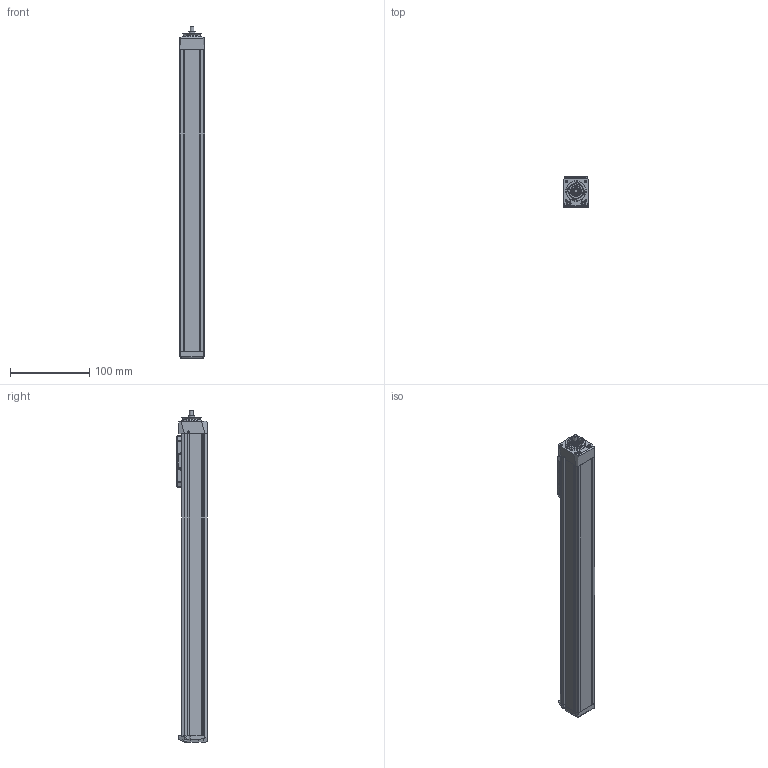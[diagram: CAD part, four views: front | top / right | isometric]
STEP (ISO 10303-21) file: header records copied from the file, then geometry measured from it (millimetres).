
FILE_DESCRIPTION(/* description */ ('STEP AP214'),/* implementation_level */ '2;1');
FILE_NAME(/* name */ 'MGBS 32 0802 300(0)',/* time_stamp */ '2023-04-12T10:43:17+02:00',/* author */ ('License CC BY-ND 4.0'),/* organization */ ('CADENAS'),/* preprocessor_version */ 'ST-DEVELOPER v19.3',/* originating_system */ 'PARTsolutions',/* authorisation */ ' ');
FILE_SCHEMA (('AUTOMOTIVE_DESIGN {1 0 10303 214 3 1 1}'));
Length unit declared in the file: millimetre
Products named in the file (6): MGBS 32 0802 300(0); MGBS 32 300_protection_strip; MGBS 32_carriage; MGBS 32_end_block; MGBS 32 300_profile; MGBS 32_drive_block
Assembly tree (5 placements, depth 2):
  MGBS 32 0802 300(0)
    MGBS 32 300_protection_strip
    MGBS 32_carriage
    MGBS 32_end_block
    MGBS 32 300_profile
    MGBS 32_drive_block
Bounding box: 32 x 38.5 x 419.5 mm (x, y, z)
Volume: 391525.6 mm3; surface area: 99962.8 mm2
Topology: 5 solids, 5 shells, 638 faces, 1686 edges, 1092 vertices
Faces by surface type: plane 301, cylinder 160, cone 94, bspline 56, torus 25, sphere 2
Full cylindrical faces by diameter (mm): 0.3 x1, 1.567 x4, 1.755 x4, 1.8 x2, 2 x2, 2.3 x4, 2.459 x8, 2.46 x4, 2.5 x11, 3 x1, 3.8 x4, 4.5 x6, 5 x5, 7.5 x1, 8 x1, 10 x1, 13.84 x1, 14.2 x1, 17.8 x1, 18.16 x1, 19.5 x1, 25 x2, 25.7 x1
Entity records: 23436 total; most frequent: CARTESIAN_POINT 4050, DIRECTION 3216, ORIENTED_EDGE 2990, EDGE_CURVE 1495, AXIS2_PLACEMENT_3D 1173, VERTEX_POINT 1077, LINE 870, VECTOR 870
